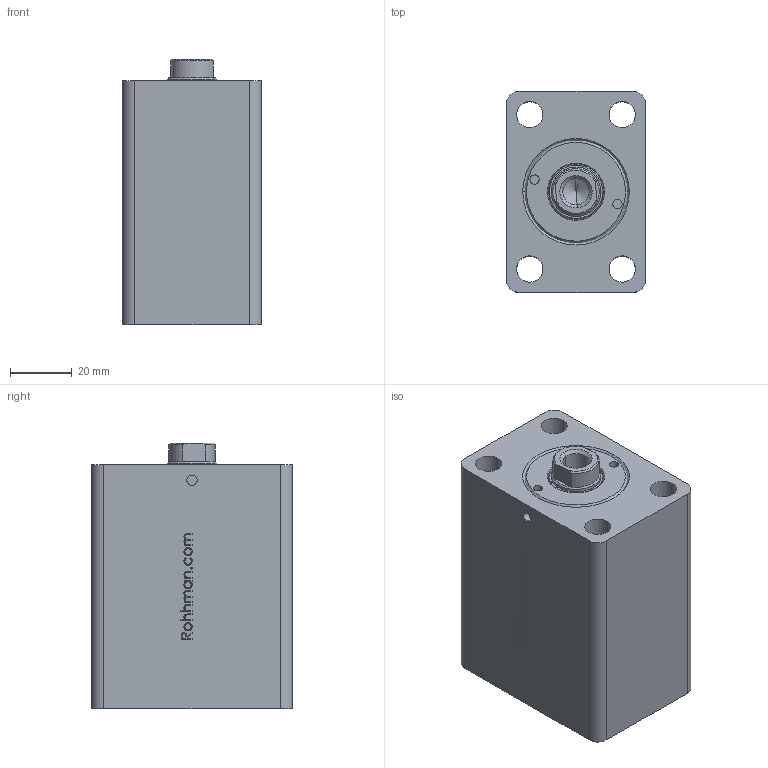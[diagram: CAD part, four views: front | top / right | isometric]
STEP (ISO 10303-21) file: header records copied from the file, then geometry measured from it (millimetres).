
FILE_DESCRIPTION (( 'STEP AP214' ), '1' );
FILE_NAME ('KBZ_02_25_16_35.STEP', '2022-09-03T18:03:36', ( '' ), ( '' ), 'SwSTEP 2.0', 'SolidWorks 2021', '' );
FILE_SCHEMA (( 'AUTOMOTIVE_DESIGN' ));
Length unit declared in the file: millimetre
Products named in the file (9): KBZ_02_25_16_35; KBZ_03_25_16_ON_KAPAK; 16_K_MIL_WEB; KO-22X2_5; K22-16X20_5X5; 16_18_PAP_16_18_5_PAP; KBZ_03_25_16_烰_KAPAK; KBZ_02_25_25_GOVDE_WEB; K06-16X22_8X3_1X4 (K016_3)
Assembly tree (8 placements, depth 3):
  KBZ_02_25_16_35
    KBZ_02_25_25_GOVDE_WEB
    16_K_MIL_WEB
    KBZ_03_25_16_烰_KAPAK
      KBZ_03_25_16_ON_KAPAK
      K22-16X20_5X5
      K06-16X22_8X3_1X4 (K016_3)
      KO-22X2_5
      16_18_PAP_16_18_5_PAP
Bounding box: 45 x 65 x 86 mm (x, y, z)
Volume: 191643.5 mm3; surface area: 49404.7 mm2
Topology: 7 solids, 7 shells, 387 faces, 920 edges, 580 vertices
Faces by surface type: bspline 130, plane 117, cylinder 79, cone 53, torus 8
Entity records: 16653 total; most frequent: CARTESIAN_POINT 8020, ORIENTED_EDGE 1836, DIRECTION 1410, EDGE_CURVE 918, VERTEX_POINT 580, AXIS2_PLACEMENT_3D 494, EDGE_LOOP 444, LINE 422
